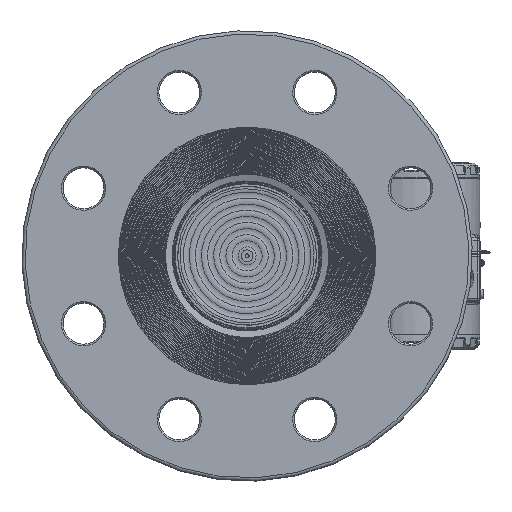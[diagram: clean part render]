
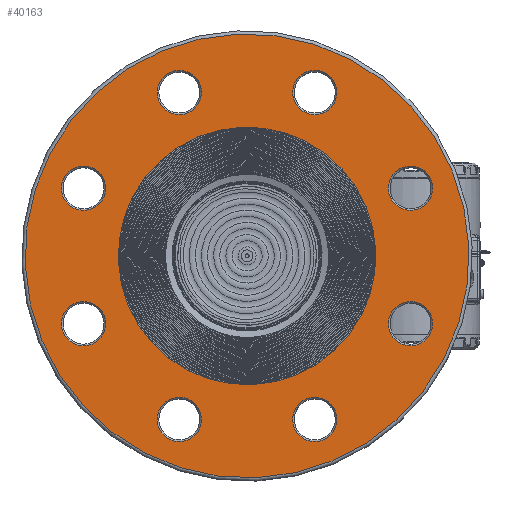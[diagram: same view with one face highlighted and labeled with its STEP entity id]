
A CAD part, top view. The second image highlights one B-rep face of the part: STEP entity #40163.
In plain terms, the highlighted planar face has unit normal (0, 0, 1).
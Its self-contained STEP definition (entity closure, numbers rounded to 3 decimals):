
#759=FACE_BOUND('',#6826,.T.);
#760=FACE_BOUND('',#6827,.T.);
#761=FACE_BOUND('',#6828,.T.);
#762=FACE_BOUND('',#6829,.T.);
#763=FACE_BOUND('',#6830,.T.);
#764=FACE_BOUND('',#6831,.T.);
#765=FACE_BOUND('',#6832,.T.);
#766=FACE_BOUND('',#6833,.T.);
#767=FACE_BOUND('',#6834,.T.);
#2850=PLANE('',#44569);
#4088=FACE_OUTER_BOUND('',#6825,.T.);
#6825=EDGE_LOOP('',(#30540));
#6826=EDGE_LOOP('',(#30541));
#6827=EDGE_LOOP('',(#30542));
#6828=EDGE_LOOP('',(#30543));
#6829=EDGE_LOOP('',(#30544));
#6830=EDGE_LOOP('',(#30545));
#6831=EDGE_LOOP('',(#30546));
#6832=EDGE_LOOP('',(#30547));
#6833=EDGE_LOOP('',(#30548));
#6834=EDGE_LOOP('',(#30549));
#12820=CIRCLE('',#44566,135.5);
#12822=CIRCLE('',#44570,13.5);
#12823=CIRCLE('',#44571,13.5);
#12824=CIRCLE('',#44572,13.5);
#12825=CIRCLE('',#44573,13.5);
#12826=CIRCLE('',#44574,78.6);
#12827=CIRCLE('',#44575,13.5);
#12828=CIRCLE('',#44576,13.5);
#12829=CIRCLE('',#44577,13.5);
#12830=CIRCLE('',#44578,13.5);
#17516=VERTEX_POINT('',#71445);
#17518=VERTEX_POINT('',#71453);
#17519=VERTEX_POINT('',#71455);
#17520=VERTEX_POINT('',#71457);
#17521=VERTEX_POINT('',#71459);
#17522=VERTEX_POINT('',#71461);
#17523=VERTEX_POINT('',#71463);
#17524=VERTEX_POINT('',#71465);
#17525=VERTEX_POINT('',#71467);
#17526=VERTEX_POINT('',#71469);
#22128=EDGE_CURVE('',#17516,#17516,#12820,.T.);
#22131=EDGE_CURVE('',#17518,#17518,#12822,.T.);
#22132=EDGE_CURVE('',#17519,#17519,#12823,.T.);
#22133=EDGE_CURVE('',#17520,#17520,#12824,.T.);
#22134=EDGE_CURVE('',#17521,#17521,#12825,.T.);
#22135=EDGE_CURVE('',#17522,#17522,#12826,.T.);
#22136=EDGE_CURVE('',#17523,#17523,#12827,.T.);
#22137=EDGE_CURVE('',#17524,#17524,#12828,.T.);
#22138=EDGE_CURVE('',#17525,#17525,#12829,.T.);
#22139=EDGE_CURVE('',#17526,#17526,#12830,.T.);
#30540=ORIENTED_EDGE('',*,*,#22128,.F.);
#30541=ORIENTED_EDGE('',*,*,#22131,.F.);
#30542=ORIENTED_EDGE('',*,*,#22132,.F.);
#30543=ORIENTED_EDGE('',*,*,#22133,.F.);
#30544=ORIENTED_EDGE('',*,*,#22134,.F.);
#30545=ORIENTED_EDGE('',*,*,#22135,.F.);
#30546=ORIENTED_EDGE('',*,*,#22136,.F.);
#30547=ORIENTED_EDGE('',*,*,#22137,.F.);
#30548=ORIENTED_EDGE('',*,*,#22138,.F.);
#30549=ORIENTED_EDGE('',*,*,#22139,.F.);
#40163=ADVANCED_FACE('',(#4088,#759,#760,#761,#762,#763,#764,#765,#766,
#767),#2850,.T.);
#44566=AXIS2_PLACEMENT_3D('',#71447,#52737,#52738);
#44569=AXIS2_PLACEMENT_3D('',#71452,#52744,#52745);
#44570=AXIS2_PLACEMENT_3D('',#71454,#52746,#52747);
#44571=AXIS2_PLACEMENT_3D('',#71456,#52748,#52749);
#44572=AXIS2_PLACEMENT_3D('',#71458,#52750,#52751);
#44573=AXIS2_PLACEMENT_3D('',#71460,#52752,#52753);
#44574=AXIS2_PLACEMENT_3D('',#71462,#52754,#52755);
#44575=AXIS2_PLACEMENT_3D('',#71464,#52756,#52757);
#44576=AXIS2_PLACEMENT_3D('',#71466,#52758,#52759);
#44577=AXIS2_PLACEMENT_3D('',#71468,#52760,#52761);
#44578=AXIS2_PLACEMENT_3D('',#71470,#52762,#52763);
#52737=DIRECTION('center_axis',(0.,0.,-1.));
#52738=DIRECTION('ref_axis',(-1.,0.,0.));
#52744=DIRECTION('center_axis',(0.,0.,1.));
#52745=DIRECTION('ref_axis',(1.,0.,0.));
#52746=DIRECTION('center_axis',(0.,0.,1.));
#52747=DIRECTION('ref_axis',(-0.707,0.707,0.));
#52748=DIRECTION('center_axis',(0.,0.,1.));
#52749=DIRECTION('ref_axis',(0.707,0.707,0.));
#52750=DIRECTION('center_axis',(0.,0.,1.));
#52751=DIRECTION('ref_axis',(-0.707,-0.707,0.));
#52752=DIRECTION('center_axis',(0.,0.,1.));
#52753=DIRECTION('ref_axis',(0.,-1.,0.));
#52754=DIRECTION('center_axis',(0.,0.,1.));
#52755=DIRECTION('ref_axis',(-1.,0.,0.));
#52756=DIRECTION('center_axis',(0.,0.,1.));
#52757=DIRECTION('ref_axis',(0.707,-0.707,0.));
#52758=DIRECTION('center_axis',(0.,0.,1.));
#52759=DIRECTION('ref_axis',(-1.,0.,0.));
#52760=DIRECTION('center_axis',(0.,0.,1.));
#52761=DIRECTION('ref_axis',(1.,0.,0.));
#52762=DIRECTION('center_axis',(0.,0.,1.));
#52763=DIRECTION('ref_axis',(0.,1.,0.));
#71445=CARTESIAN_POINT('',(135.5,0.,38.));
#71447=CARTESIAN_POINT('Origin',(0.,0.,38.));
#71452=CARTESIAN_POINT('Origin',(0.,0.,
38.));
#71453=CARTESIAN_POINT('',(85.913,66.822,38.));
#71454=CARTESIAN_POINT('Origin',(76.368,76.368,38.));
#71455=CARTESIAN_POINT('',(66.822,-85.913,38.));
#71456=CARTESIAN_POINT('Origin',(76.368,-76.368,38.));
#71457=CARTESIAN_POINT('',(-66.822,85.913,38.));
#71458=CARTESIAN_POINT('Origin',(-76.368,76.368,38.));
#71459=CARTESIAN_POINT('',(-108.,13.5,38.));
#71460=CARTESIAN_POINT('Origin',(-108.,0.,38.));
#71461=CARTESIAN_POINT('',(78.6,0.,38.));
#71462=CARTESIAN_POINT('Origin',(0.,0.,38.));
#71463=CARTESIAN_POINT('',(-85.913,-66.822,38.));
#71464=CARTESIAN_POINT('Origin',(-76.368,-76.368,38.));
#71465=CARTESIAN_POINT('',(13.5,108.,38.));
#71466=CARTESIAN_POINT('Origin',(0.,108.,38.));
#71467=CARTESIAN_POINT('',(-13.5,-108.,38.));
#71468=CARTESIAN_POINT('Origin',(0.,-108.,38.));
#71469=CARTESIAN_POINT('',(108.,-13.5,38.));
#71470=CARTESIAN_POINT('Origin',(108.,0.,38.));
